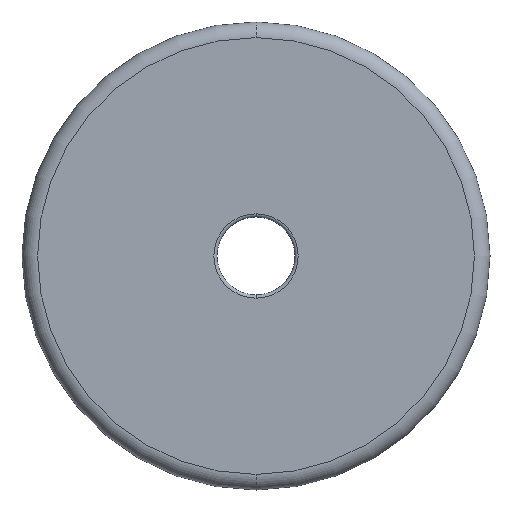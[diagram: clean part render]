
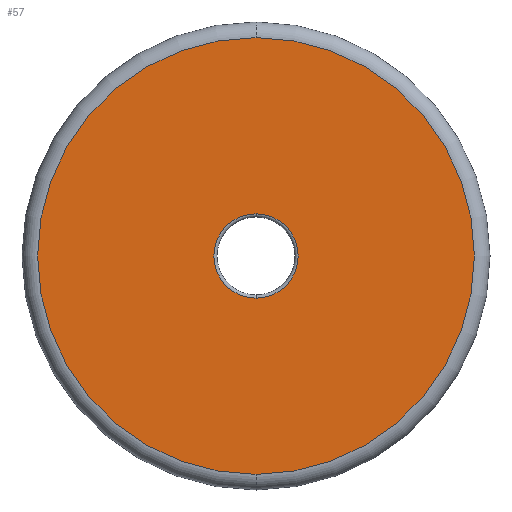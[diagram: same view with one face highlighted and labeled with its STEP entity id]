
A CAD part, front view. The second image highlights one B-rep face of the part: STEP entity #57.
In plain terms, the highlighted planar face has unit normal (0, -1, 0).
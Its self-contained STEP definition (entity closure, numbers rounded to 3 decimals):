
#6 = FACE_BOUND ( 'NONE', #183, .T. ) ;
#8 = CARTESIAN_POINT ( 'NONE',  ( 0., 0., 0. ) ) ;
#26 = EDGE_LOOP ( 'NONE', ( #184, #87 ) ) ;
#45 = CIRCLE ( 'NONE', #81, 2.7 ) ;
#46 = DIRECTION ( 'NONE',  ( 0., 1., 0. ) ) ;
#57 = ADVANCED_FACE ( 'NONE', ( #6, #68 ), #133, .F. ) ;
#61 = VERTEX_POINT ( 'NONE', #64 ) ;
#64 = CARTESIAN_POINT ( 'NONE',  ( 0., 0., 2.7 ) ) ;
#68 = FACE_OUTER_BOUND ( 'NONE', #26, .T. ) ;
#73 = EDGE_CURVE ( 'NONE', #99, #264, #76, .T. ) ;
#76 = CIRCLE ( 'NONE', #86, 14. ) ;
#81 = AXIS2_PLACEMENT_3D ( 'NONE', #8, #46, #190 ) ;
#86 = AXIS2_PLACEMENT_3D ( 'NONE', #422, #186, #329 ) ;
#87 = ORIENTED_EDGE ( 'NONE', *, *, #202, .T. ) ;
#95 = DIRECTION ( 'NONE',  ( 0., 0., 1. ) ) ;
#96 = ORIENTED_EDGE ( 'NONE', *, *, #283, .T. ) ;
#99 = VERTEX_POINT ( 'NONE', #303 ) ;
#129 = AXIS2_PLACEMENT_3D ( 'NONE', #354, #165, #235 ) ;
#133 = PLANE ( 'NONE',  #248 ) ;
#144 = ORIENTED_EDGE ( 'NONE', *, *, #200, .T. ) ;
#161 = DIRECTION ( 'NONE',  ( 0., 1., 0. ) ) ;
#165 = DIRECTION ( 'NONE',  ( 0., -1., 0. ) ) ;
#176 = CARTESIAN_POINT ( 'NONE',  ( 0., 0., -2.7 ) ) ;
#183 = EDGE_LOOP ( 'NONE', ( #96, #144 ) ) ;
#184 = ORIENTED_EDGE ( 'NONE', *, *, #73, .T. ) ;
#186 = DIRECTION ( 'NONE',  ( 0., -1., 0. ) ) ;
#190 = DIRECTION ( 'NONE',  ( 0., 0., 1. ) ) ;
#191 = DIRECTION ( 'NONE',  ( 0., 0., 1. ) ) ;
#200 = EDGE_CURVE ( 'NONE', #385, #61, #319, .T. ) ;
#202 = EDGE_CURVE ( 'NONE', #264, #99, #334, .T. ) ;
#235 = DIRECTION ( 'NONE',  ( 0., 0., 1. ) ) ;
#248 = AXIS2_PLACEMENT_3D ( 'NONE', #392, #161, #191 ) ;
#264 = VERTEX_POINT ( 'NONE', #300 ) ;
#283 = EDGE_CURVE ( 'NONE', #61, #385, #45, .T. ) ;
#300 = CARTESIAN_POINT ( 'NONE',  ( 0., 0., -14. ) ) ;
#303 = CARTESIAN_POINT ( 'NONE',  ( 0., 0., 14. ) ) ;
#319 = CIRCLE ( 'NONE', #366, 2.7 ) ;
#321 = DIRECTION ( 'NONE',  ( 0., 1., 0. ) ) ;
#329 = DIRECTION ( 'NONE',  ( 0., 0., 1. ) ) ;
#334 = CIRCLE ( 'NONE', #129, 14. ) ;
#349 = CARTESIAN_POINT ( 'NONE',  ( 0., 0., 0. ) ) ;
#354 = CARTESIAN_POINT ( 'NONE',  ( 0., 0., 0. ) ) ;
#366 = AXIS2_PLACEMENT_3D ( 'NONE', #349, #321, #95 ) ;
#385 = VERTEX_POINT ( 'NONE', #176 ) ;
#392 = CARTESIAN_POINT ( 'NONE',  ( 0., 0., 0. ) ) ;
#422 = CARTESIAN_POINT ( 'NONE',  ( 0., 0., 0. ) ) ;
